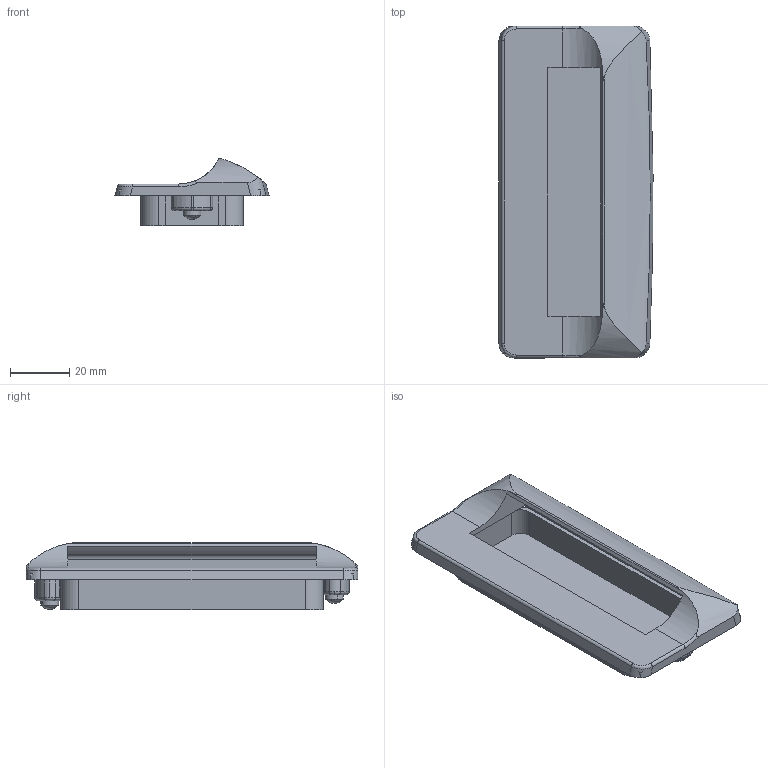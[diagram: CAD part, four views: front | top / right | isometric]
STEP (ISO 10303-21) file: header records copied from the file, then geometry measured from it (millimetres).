
FILE_DESCRIPTION (( 'STEP AP203' ), '1' );
FILE_NAME ('KA-75-2.STEP', '2009-12-09T01:09:40', ( ' ' ), ( '' ), 'SwSTEP 2.0', 'SolidWorks 2009', '' );
FILE_SCHEMA (( 'CONFIG_CONTROL_DESIGN' ));
Length unit declared in the file: millimetre
Products named in the file (5): BOLT; KA-75-2; BACK COVER; BODY; washer
Assembly tree (6 placements, depth 2):
  KA-75-2
    BACK COVER
    washer  x2
    BOLT  x2
    BODY
Bounding box: 51.99 x 112 x 22.61 mm (x, y, z)
Volume: 25599 mm3; surface area: 25775.1 mm2
Topology: 6 solids, 6 shells, 172 faces, 442 edges, 285 vertices
Faces by surface type: cylinder 79, plane 68, torus 18, sphere 4, bspline 3
Entity records: 5480 total; most frequent: CARTESIAN_POINT 1569, ORIENTED_EDGE 702, DIRECTION 697, EDGE_CURVE 351, AXIS2_PLACEMENT_3D 251, VERTEX_POINT 229, LINE 195, VECTOR 195
